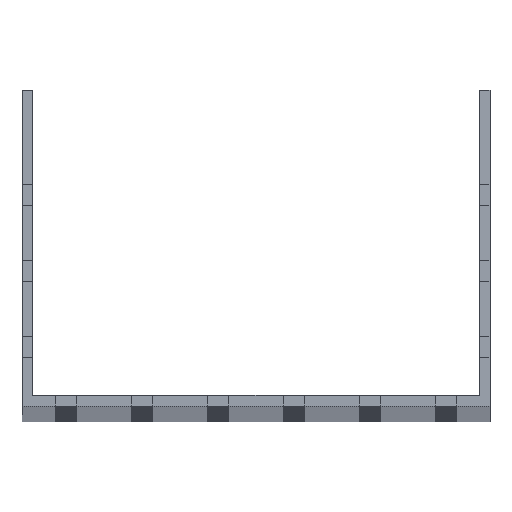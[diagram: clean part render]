
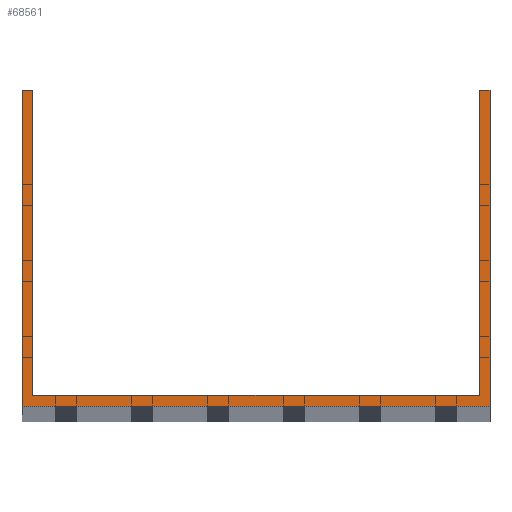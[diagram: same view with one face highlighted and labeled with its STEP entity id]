
A CAD part, top view. The second image highlights one B-rep face of the part: STEP entity #68561.
In plain terms, the highlighted planar face has unit normal (0, 0, 1).
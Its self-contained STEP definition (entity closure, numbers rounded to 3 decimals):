
#5008 = VERTEX_POINT ( 'NONE', #38043 ) ;
#5904 = CARTESIAN_POINT ( 'NONE',  ( 77., 104., 1500. ) ) ;
#6495 = DIRECTION ( 'NONE',  ( 0., 1., 0. ) ) ;
#6940 = EDGE_CURVE ( 'NONE', #45259, #66072, #72190, .T. ) ;
#7417 = DIRECTION ( 'NONE',  ( 1., 0., 0. ) ) ;
#8003 = CARTESIAN_POINT ( 'NONE',  ( 77., 0., 1500. ) ) ;
#9659 = DIRECTION ( 'NONE',  ( 0., 0., 1. ) ) ;
#11242 = EDGE_CURVE ( 'NONE', #106469, #89837, #56445, .T. ) ;
#13161 = VECTOR ( 'NONE', #6495, 1000. ) ;
#14236 = CARTESIAN_POINT ( 'NONE',  ( -77., 0., 1500. ) ) ;
#17042 = ORIENTED_EDGE ( 'NONE', *, *, #29901, .F. ) ;
#17228 = VECTOR ( 'NONE', #53675, 1000. ) ;
#19195 = VERTEX_POINT ( 'NONE', #14236 ) ;
#24062 = CARTESIAN_POINT ( 'NONE',  ( -77., 104., 1500. ) ) ;
#27008 = CARTESIAN_POINT ( 'NONE',  ( -77., 3.5, 1500. ) ) ;
#28573 = DIRECTION ( 'NONE',  ( 0., -1., 0. ) ) ;
#29901 = EDGE_CURVE ( 'NONE', #115141, #106469, #35927, .T. ) ;
#31510 = CARTESIAN_POINT ( 'NONE',  ( -73.5, 104., 1500. ) ) ;
#33877 = LINE ( 'NONE', #5904, #13161 ) ;
#35876 = ORIENTED_EDGE ( 'NONE', *, *, #6940, .T. ) ;
#35927 = LINE ( 'NONE', #27008, #98125 ) ;
#37021 = PLANE ( 'NONE',  #96550 ) ;
#38043 = CARTESIAN_POINT ( 'NONE',  ( 77., 104., 1500. ) ) ;
#38086 = CARTESIAN_POINT ( 'NONE',  ( -77., 104., 1500. ) ) ;
#41509 = CARTESIAN_POINT ( 'NONE',  ( -73.5, 104., 1500. ) ) ;
#43638 = ORIENTED_EDGE ( 'NONE', *, *, #65134, .F. ) ;
#45114 = EDGE_CURVE ( 'NONE', #66072, #19195, #45856, .T. ) ;
#45259 = VERTEX_POINT ( 'NONE', #31510 ) ;
#45413 = EDGE_CURVE ( 'NONE', #91179, #5008, #33877, .T. ) ;
#45856 = LINE ( 'NONE', #38086, #104300 ) ;
#49155 = ORIENTED_EDGE ( 'NONE', *, *, #45114, .T. ) ;
#53675 = DIRECTION ( 'NONE',  ( 0., 1., 0. ) ) ;
#56445 = LINE ( 'NONE', #74885, #17228 ) ;
#58455 = VECTOR ( 'NONE', #78385, 1000. ) ;
#60353 = DIRECTION ( 'NONE',  ( -1., 0., 0. ) ) ;
#65134 = EDGE_CURVE ( 'NONE', #45259, #115141, #69461, .T. ) ;
#65893 = VECTOR ( 'NONE', #60353, 1000. ) ;
#66072 = VERTEX_POINT ( 'NONE', #105793 ) ;
#68561 = ADVANCED_FACE ( 'NONE', ( #91174 ), #37021, .T. ) ;
#69461 = LINE ( 'NONE', #41509, #58455 ) ;
#72190 = LINE ( 'NONE', #24062, #65893 ) ;
#73319 = CARTESIAN_POINT ( 'NONE',  ( 0., 0., 1500. ) ) ;
#74885 = CARTESIAN_POINT ( 'NONE',  ( 73.5, 104., 1500. ) ) ;
#76403 = LINE ( 'NONE', #91914, #80085 ) ;
#77052 = CARTESIAN_POINT ( 'NONE',  ( 73.5, 104., 1500. ) ) ;
#77741 = ORIENTED_EDGE ( 'NONE', *, *, #104409, .T. ) ;
#78385 = DIRECTION ( 'NONE',  ( 0., -1., 0. ) ) ;
#78832 = CARTESIAN_POINT ( 'NONE',  ( -77., 0., 1500. ) ) ;
#80085 = VECTOR ( 'NONE', #102590, 1000. ) ;
#81740 = DIRECTION ( 'NONE',  ( 1., 0., 0. ) ) ;
#83588 = ORIENTED_EDGE ( 'NONE', *, *, #96779, .T. ) ;
#87181 = CARTESIAN_POINT ( 'NONE',  ( 73.5, 3.5, 1500. ) ) ;
#89529 = LINE ( 'NONE', #78832, #103826 ) ;
#89837 = VERTEX_POINT ( 'NONE', #77052 ) ;
#90396 = ORIENTED_EDGE ( 'NONE', *, *, #45413, .T. ) ;
#91174 = FACE_OUTER_BOUND ( 'NONE', #91355, .T. ) ;
#91179 = VERTEX_POINT ( 'NONE', #8003 ) ;
#91355 = EDGE_LOOP ( 'NONE', ( #43638, #35876, #49155, #77741, #90396, #83588, #115158, #17042 ) ) ;
#91914 = CARTESIAN_POINT ( 'NONE',  ( -77., 104., 1500. ) ) ;
#96550 = AXIS2_PLACEMENT_3D ( 'NONE', #73319, #9659, #100682 ) ;
#96779 = EDGE_CURVE ( 'NONE', #5008, #89837, #76403, .T. ) ;
#98125 = VECTOR ( 'NONE', #81740, 1000. ) ;
#100682 = DIRECTION ( 'NONE',  ( 1., 0., 0. ) ) ;
#102590 = DIRECTION ( 'NONE',  ( -1., 0., 0. ) ) ;
#103826 = VECTOR ( 'NONE', #7417, 1000. ) ;
#104300 = VECTOR ( 'NONE', #28573, 1000. ) ;
#104409 = EDGE_CURVE ( 'NONE', #19195, #91179, #89529, .T. ) ;
#104415 = CARTESIAN_POINT ( 'NONE',  ( -73.5, 3.5, 1500. ) ) ;
#105793 = CARTESIAN_POINT ( 'NONE',  ( -77., 104., 1500. ) ) ;
#106469 = VERTEX_POINT ( 'NONE', #87181 ) ;
#115141 = VERTEX_POINT ( 'NONE', #104415 ) ;
#115158 = ORIENTED_EDGE ( 'NONE', *, *, #11242, .F. ) ;
